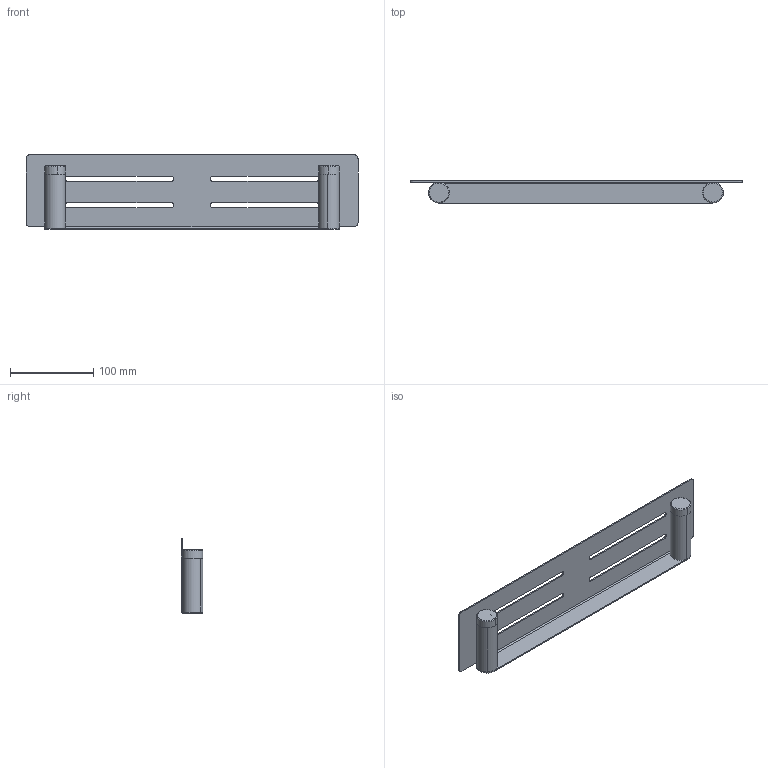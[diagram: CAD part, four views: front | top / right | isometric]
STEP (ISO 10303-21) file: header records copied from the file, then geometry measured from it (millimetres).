
FILE_DESCRIPTION (( 'STEP AP214' ), '1' );
FILE_NAME ('Pó³ka prysznicowa OTEA 40cm .STEP', '2024-07-03T19:10:38', ( '' ), ( '' ), 'SwSTEP 2.0', 'SolidWorks 2021', '' );
FILE_SCHEMA (( 'AUTOMOTIVE_DESIGN' ));
Length unit declared in the file: millimetre
Products named in the file (4): 01-012-0400-W-00-00; Dystans monta¿owy; Pó³ka prysznicowa OTEA 40cm ; Œruba M10
Assembly tree (5 placements, depth 2):
  Pó³ka prysznicowa OTEA 40cm 
    01-012-0400-W-00-00
    Dystans monta¿owy  x2
    Œruba M10  x2
Bounding box: 400 x 26.5 x 90 mm (x, y, z)
Volume: 126202.6 mm3; surface area: 107045.4 mm2
Topology: 5 solids, 5 shells, 152 faces, 390 edges, 252 vertices
Faces by surface type: cylinder 88, plane 44, bspline 16, torus 4
Entity records: 8106 total; most frequent: CARTESIAN_POINT 5632, ORIENTED_EDGE 520, DIRECTION 449, EDGE_CURVE 260, VERTEX_POINT 168, AXIS2_PLACEMENT_3D 167, EDGE_LOOP 116, VECTOR 115
